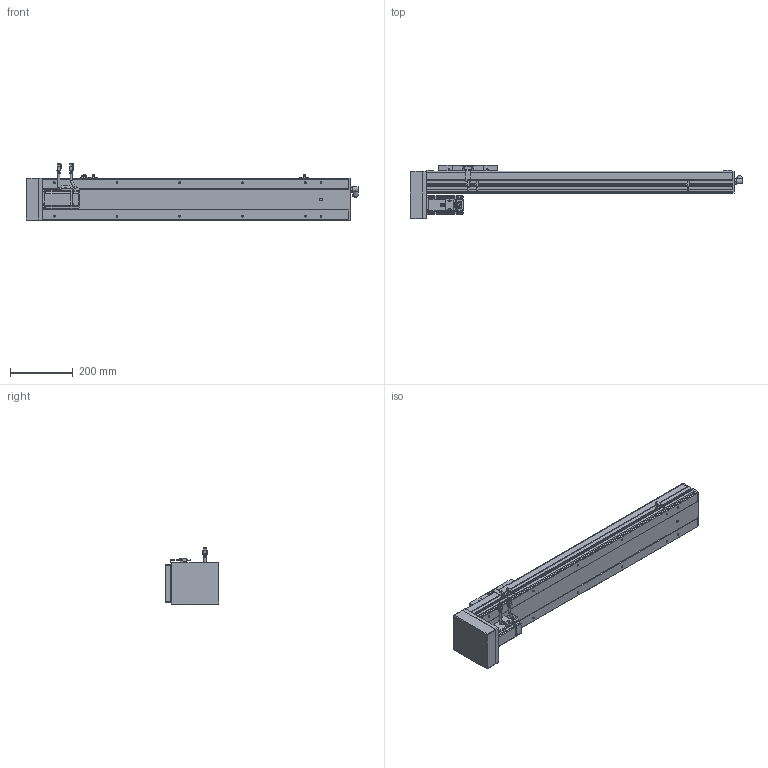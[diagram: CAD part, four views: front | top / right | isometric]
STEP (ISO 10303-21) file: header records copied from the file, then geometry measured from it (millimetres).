
FILE_DESCRIPTION(/* description */ ('STEP AP214'),/* implementation_level */ '2;1');
FILE_NAME(/* name */ 'PSC140-L05-S700-BM-P40-C1-N(0-P)',/* time_stamp */ '2022-06-13T03:21:09+02:00',/* author */ ('License CC BY-ND 4.0'),/* organization */ ('CADENAS'),/* preprocessor_version */ 'ST-DEVELOPER v18.102',/* originating_system */ 'PARTsolutions',/* authorisation */ ' ');
FILE_SCHEMA (('AUTOMOTIVE_DESIGN {1 0 10303 214 3 1 1}'));
Length unit declared in the file: millimetre
Products named in the file (11): PSC140-L05-S700-BM-P40-C1-N(0-P); P40-s2; P40-c2; P40-s1; P40-c1; P40-p1; PSC140-BM-body2; PSC140-sensor; PSC140-BM-SLIDER; PSC140-S700-BM-P40-C1-P_BODY1; PSC140-L05-S700-BM-P40-C1-N(0-P)_dummy
Assembly tree (12 placements, depth 2):
  PSC140-L05-S700-BM-P40-C1-N(0-P)
    P40-s2
    P40-c2
    P40-s1
    P40-c1
    P40-p1
    PSC140-BM-body2
    PSC140-sensor  x3
    PSC140-BM-SLIDER
    PSC140-S700-BM-P40-C1-P_BODY1
    PSC140-L05-S700-BM-P40-C1-N(0-P)_dummy
Bounding box: 1058 x 171.5 x 182.48 mm (x, y, z)
Volume: 11137875.1 mm3; surface area: 661143.5 mm2
Topology: 11 solids, 11 shells, 1238 faces, 3195 edges, 2114 vertices
Faces by surface type: plane 862, cylinder 317, cone 40, torus 19
Full cylindrical faces by diameter (mm): 1 x8, 2.6 x10, 2.8 x3, 3.3 x8, 4.5 x12, 4.6 x3, 4.917 x16, 5 x4, 5.5 x8, 6 x11, 7 x10, 9 x2, 10 x1, 11 x1, 12 x1, 13.74 x1, 14 x1, 16.4 x2, 16.5 x1, 36 x1, 50 x2
Entity records: 34272 total; most frequent: CARTESIAN_POINT 5984, DIRECTION 5765, ORIENTED_EDGE 5562, EDGE_CURVE 2781, LINE 2105, VECTOR 2105, VERTEX_POINT 1934, AXIS2_PLACEMENT_3D 1830
